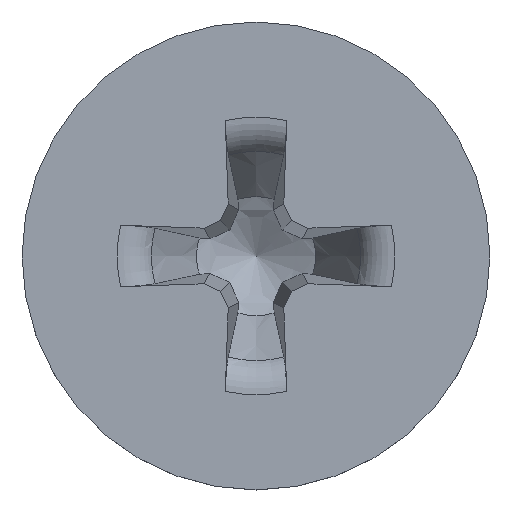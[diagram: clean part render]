
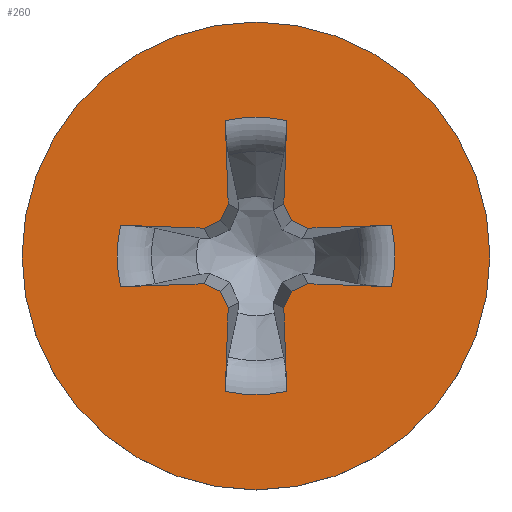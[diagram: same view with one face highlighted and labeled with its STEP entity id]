
A CAD part, top view. The second image highlights one B-rep face of the part: STEP entity #260.
In plain terms, the highlighted planar face has unit normal (0, 0, 1).
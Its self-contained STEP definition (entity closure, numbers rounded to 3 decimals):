
#79=LINE('',#2591,#146);
#80=LINE('',#2596,#147);
#81=LINE('',#2598,#148);
#82=LINE('',#2600,#149);
#83=LINE('',#2602,#150);
#84=LINE('',#2606,#151);
#85=LINE('',#2608,#152);
#86=LINE('',#2610,#153);
#87=LINE('',#2612,#154);
#88=LINE('',#2616,#155);
#89=LINE('',#2618,#156);
#90=LINE('',#2620,#157);
#91=LINE('',#2622,#158);
#92=LINE('',#2626,#159);
#93=LINE('',#2628,#160);
#94=LINE('',#2630,#161);
#146=VECTOR('',#1379,1.);
#147=VECTOR('',#1382,1.);
#148=VECTOR('',#1383,1.);
#149=VECTOR('',#1384,1.);
#150=VECTOR('',#1385,1.);
#151=VECTOR('',#1388,1.);
#152=VECTOR('',#1389,1.);
#153=VECTOR('',#1390,1.);
#154=VECTOR('',#1391,1.);
#155=VECTOR('',#1394,1.);
#156=VECTOR('',#1395,1.);
#157=VECTOR('',#1396,1.);
#158=VECTOR('',#1397,1.);
#159=VECTOR('',#1400,1.);
#160=VECTOR('',#1401,1.);
#161=VECTOR('',#1402,1.);
#214=PLANE('',#1314);
#241=FACE_BOUND('',#421,.T.);
#242=FACE_BOUND('',#422,.T.);
#260=ADVANCED_FACE('',(#241,#242),#214,.F.);
#421=EDGE_LOOP('',(#562,#563,#564,#565,#566,#567,#568,#569,#570,#571,#572,
#573,#574,#575,#576,#577,#578,#579,#580,#581));
#422=EDGE_LOOP('',(#582));
#504=CIRCLE('',#1309,2.672);
#505=CIRCLE('',#1310,2.672);
#506=CIRCLE('',#1311,2.672);
#507=CIRCLE('',#1312,2.672);
#508=CIRCLE('',#1313,4.5);
#562=ORIENTED_EDGE('',*,*,#1048,.F.);
#563=ORIENTED_EDGE('',*,*,#1049,.T.);
#564=ORIENTED_EDGE('',*,*,#1050,.F.);
#565=ORIENTED_EDGE('',*,*,#1051,.F.);
#566=ORIENTED_EDGE('',*,*,#1052,.F.);
#567=ORIENTED_EDGE('',*,*,#1053,.F.);
#568=ORIENTED_EDGE('',*,*,#1054,.T.);
#569=ORIENTED_EDGE('',*,*,#1055,.F.);
#570=ORIENTED_EDGE('',*,*,#1056,.F.);
#571=ORIENTED_EDGE('',*,*,#1057,.F.);
#572=ORIENTED_EDGE('',*,*,#1058,.F.);
#573=ORIENTED_EDGE('',*,*,#1059,.T.);
#574=ORIENTED_EDGE('',*,*,#1060,.F.);
#575=ORIENTED_EDGE('',*,*,#1061,.F.);
#576=ORIENTED_EDGE('',*,*,#1062,.F.);
#577=ORIENTED_EDGE('',*,*,#1063,.F.);
#578=ORIENTED_EDGE('',*,*,#1064,.T.);
#579=ORIENTED_EDGE('',*,*,#1065,.F.);
#580=ORIENTED_EDGE('',*,*,#1066,.F.);
#581=ORIENTED_EDGE('',*,*,#1067,.F.);
#582=ORIENTED_EDGE('',*,*,#1068,.F.);
#927=VERTEX_POINT('',#2592);
#928=VERTEX_POINT('',#2593);
#929=VERTEX_POINT('',#2595);
#930=VERTEX_POINT('',#2597);
#931=VERTEX_POINT('',#2599);
#932=VERTEX_POINT('',#2601);
#933=VERTEX_POINT('',#2603);
#934=VERTEX_POINT('',#2605);
#935=VERTEX_POINT('',#2607);
#936=VERTEX_POINT('',#2609);
#937=VERTEX_POINT('',#2611);
#938=VERTEX_POINT('',#2613);
#939=VERTEX_POINT('',#2615);
#940=VERTEX_POINT('',#2617);
#941=VERTEX_POINT('',#2619);
#942=VERTEX_POINT('',#2621);
#943=VERTEX_POINT('',#2623);
#944=VERTEX_POINT('',#2625);
#945=VERTEX_POINT('',#2627);
#946=VERTEX_POINT('',#2629);
#947=VERTEX_POINT('',#2632);
#1048=EDGE_CURVE('',#927,#928,#79,.T.);
#1049=EDGE_CURVE('',#927,#929,#504,.T.);
#1050=EDGE_CURVE('',#930,#929,#80,.T.);
#1051=EDGE_CURVE('',#931,#930,#81,.T.);
#1052=EDGE_CURVE('',#932,#931,#82,.T.);
#1053=EDGE_CURVE('',#933,#932,#83,.T.);
#1054=EDGE_CURVE('',#933,#934,#505,.T.);
#1055=EDGE_CURVE('',#935,#934,#84,.T.);
#1056=EDGE_CURVE('',#936,#935,#85,.T.);
#1057=EDGE_CURVE('',#937,#936,#86,.T.);
#1058=EDGE_CURVE('',#938,#937,#87,.T.);
#1059=EDGE_CURVE('',#938,#939,#506,.T.);
#1060=EDGE_CURVE('',#940,#939,#88,.T.);
#1061=EDGE_CURVE('',#941,#940,#89,.T.);
#1062=EDGE_CURVE('',#942,#941,#90,.T.);
#1063=EDGE_CURVE('',#943,#942,#91,.T.);
#1064=EDGE_CURVE('',#943,#944,#507,.T.);
#1065=EDGE_CURVE('',#945,#944,#92,.T.);
#1066=EDGE_CURVE('',#946,#945,#93,.T.);
#1067=EDGE_CURVE('',#928,#946,#94,.T.);
#1068=EDGE_CURVE('',#947,#947,#508,.T.);
#1309=AXIS2_PLACEMENT_3D('',#2594,#1380,#1381);
#1310=AXIS2_PLACEMENT_3D('',#2604,#1386,#1387);
#1311=AXIS2_PLACEMENT_3D('',#2614,#1392,#1393);
#1312=AXIS2_PLACEMENT_3D('',#2624,#1398,#1399);
#1313=AXIS2_PLACEMENT_3D('',#2631,#1403,#1404);
#1314=AXIS2_PLACEMENT_3D('',#2633,#1405,#1406);
#1379=DIRECTION('',(-0.999,-0.035,0.));
#1380=DIRECTION('',(0.,0.,-1.));
#1381=DIRECTION('',(-1.,0.,0.));
#1382=DIRECTION('',(0.999,-0.035,0.));
#1383=DIRECTION('',(0.906,0.423,0.));
#1384=DIRECTION('',(0.423,0.906,0.));
#1385=DIRECTION('',(-0.035,0.999,0.));
#1386=DIRECTION('',(0.,0.,-1.));
#1387=DIRECTION('',(-1.,0.,0.));
#1388=DIRECTION('',(-0.035,-0.999,0.));
#1389=DIRECTION('',(0.423,-0.906,0.));
#1390=DIRECTION('',(0.906,-0.423,0.));
#1391=DIRECTION('',(0.999,0.035,0.));
#1392=DIRECTION('',(0.,0.,-1.));
#1393=DIRECTION('',(-1.,0.,0.));
#1394=DIRECTION('',(-0.999,0.035,0.));
#1395=DIRECTION('',(-0.906,-0.423,0.));
#1396=DIRECTION('',(-0.423,-0.906,0.));
#1397=DIRECTION('',(0.035,-0.999,0.));
#1398=DIRECTION('',(0.,0.,-1.));
#1399=DIRECTION('',(-1.,0.,0.));
#1400=DIRECTION('',(0.035,0.999,0.));
#1401=DIRECTION('',(-0.423,0.906,0.));
#1402=DIRECTION('',(-0.906,0.423,0.));
#1403=DIRECTION('',(0.,0.,-1.));
#1404=DIRECTION('',(-1.,0.,0.));
#1405=DIRECTION('',(0.,0.,-1.));
#1406=DIRECTION('',(-1.,0.,0.));
#2591=CARTESIAN_POINT('',(-0.017,0.5,3.435));
#2592=CARTESIAN_POINT('',(2.606,0.591,3.435));
#2593=CARTESIAN_POINT('',(0.999,0.535,3.435));
#2594=CARTESIAN_POINT('',(0.,0.,3.435));
#2595=CARTESIAN_POINT('',(2.606,-0.591,3.435));
#2596=CARTESIAN_POINT('',(-0.017,-0.5,3.435));
#2597=CARTESIAN_POINT('',(0.999,-0.535,3.435));
#2598=CARTESIAN_POINT('',(0.383,-0.822,3.435));
#2599=CARTESIAN_POINT('',(0.683,-0.683,3.435));
#2600=CARTESIAN_POINT('',(0.822,-0.383,3.435));
#2601=CARTESIAN_POINT('',(0.535,-0.999,3.435));
#2602=CARTESIAN_POINT('',(0.5,0.017,3.435));
#2603=CARTESIAN_POINT('',(0.591,-2.606,3.435));
#2604=CARTESIAN_POINT('',(0.,0.,3.435));
#2605=CARTESIAN_POINT('',(-0.591,-2.606,3.435));
#2606=CARTESIAN_POINT('',(-0.5,0.017,3.435));
#2607=CARTESIAN_POINT('',(-0.535,-0.999,3.435));
#2608=CARTESIAN_POINT('',(-0.822,-0.383,3.435));
#2609=CARTESIAN_POINT('',(-0.683,-0.683,3.435));
#2610=CARTESIAN_POINT('',(-0.383,-0.822,3.435));
#2611=CARTESIAN_POINT('',(-0.999,-0.535,3.435));
#2612=CARTESIAN_POINT('',(0.017,-0.5,3.435));
#2613=CARTESIAN_POINT('',(-2.606,-0.591,3.435));
#2614=CARTESIAN_POINT('',(0.,0.,3.435));
#2615=CARTESIAN_POINT('',(-2.606,0.591,3.435));
#2616=CARTESIAN_POINT('',(0.017,0.5,3.435));
#2617=CARTESIAN_POINT('',(-0.999,0.535,3.435));
#2618=CARTESIAN_POINT('',(-0.383,0.822,3.435));
#2619=CARTESIAN_POINT('',(-0.683,0.683,3.435));
#2620=CARTESIAN_POINT('',(-0.822,0.383,3.435));
#2621=CARTESIAN_POINT('',(-0.535,0.999,3.435));
#2622=CARTESIAN_POINT('',(-0.5,-0.017,3.435));
#2623=CARTESIAN_POINT('',(-0.591,2.606,3.435));
#2624=CARTESIAN_POINT('',(0.,0.,3.435));
#2625=CARTESIAN_POINT('',(0.591,2.606,3.435));
#2626=CARTESIAN_POINT('',(0.5,-0.017,3.435));
#2627=CARTESIAN_POINT('',(0.535,0.999,3.435));
#2628=CARTESIAN_POINT('',(0.822,0.383,3.435));
#2629=CARTESIAN_POINT('',(0.683,0.683,3.435));
#2630=CARTESIAN_POINT('',(0.383,0.822,3.435));
#2631=CARTESIAN_POINT('',(0.,0.,3.435));
#2632=CARTESIAN_POINT('',(-4.5,0.,3.435));
#2633=CARTESIAN_POINT('',(0.,0.,3.435));
